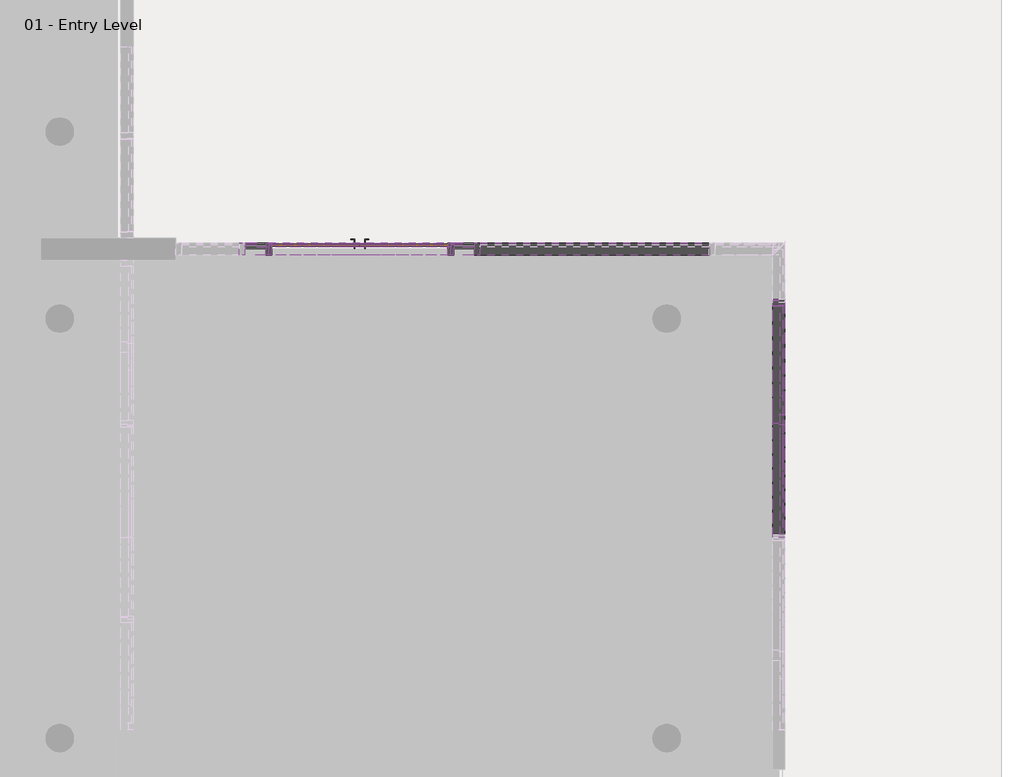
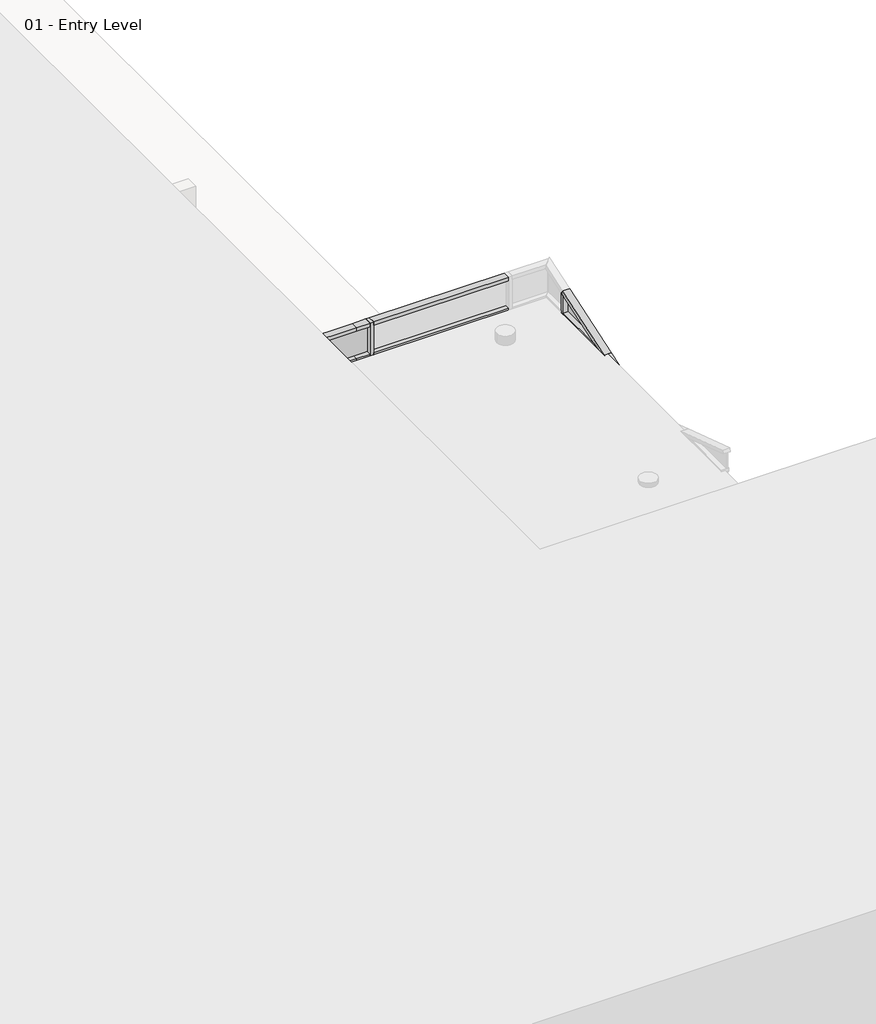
# One storey, part 16 of 34: 93 members, 29 plates, 1 door.
"""IFC4 building model written with IfcOpenShell, lengths in millimetres."""

from ifc_helpers import new_model, si_unit, origin, place, context, project, spatial, transform, mapped, element, save
from components import curtain_wall_dbl_glass_curtain_wall_dbl_glass_a5de0235, member_6e77e263, member_89bfb2f9, member_85cc6aa7, member_474f9ece, member_fce4fd76, member_056e3271, member_b2bde9e6, member_5d67b9fc, member_a5966c2a, member_aa396729, member_420b45ef, member_2eb7018d, member_d60e8053, member_51dbde35, member_30b3e1b1, member_80bb9b3a, member_75d1e245, system_panel_glazed_1068a10c, system_panel_glazed_a178916c, system_panel_glazed_5992a3c5, system_panel_glazed_079f77b7, system_panel_glazed_7ab8f380, system_panel_glazed_5ffb59d1, system_panel_glazed_9c9336f7, system_panel_glazed_75890ef7, system_panel_glazed_ea9774ea

model = new_model("IFC4")

# Units and contexts
model_context = context("Model", 3, world=origin())
ifc_project = project(units=[si_unit("LENGTHUNIT", "METRE", prefix="MILLI")], contexts=[model_context])

# Site, building, storey
site = spatial("IfcSite", under=ifc_project)
building = spatial("IfcBuilding", under=site)
storey = spatial("IfcBuildingStorey", under=building, Name="01 - Entry Level", Elevation=0.0)

# Door
placement = place(None, origin())
curtain_wall_dbl_glass_curtain_wall_dbl_glass_shape = curtain_wall_dbl_glass_curtain_wall_dbl_glass_a5de0235(model_context)
element("IfcDoor", 1, ObjectType="Curtain Wall Dbl Glass : Curtain Wall Dbl Glass", at=placement, inside=storey, context=model_context, shape_type="MappedRepresentation", body=[
    mapped(curtain_wall_dbl_glass_curtain_wall_dbl_glass_shape, transform((19598.7615197, 22545.6, 0.0), x_axis=(-1.0, 0.0, 0.0), y_axis=(0.0, -1.0, 0.0), z_axis=(0.0, 0.0, 1.0))),
])

# Members
member_shape = member_6e77e263(model_context)
element("IfcMember", 2, ObjectType="Rectangular Mullion : 2.5\" x 5\" rectangular", at=placement, inside=storey, context=model_context, shape_type="MappedRepresentation", body=[
    mapped(member_shape, transform((20817.9615197, 22545.6, 0.0), x_axis=(-1.0, 0.0, 0.0), y_axis=(0.0, 1.0, 0.0), z_axis=(0.0, 0.0, -1.0))),
])
element("IfcMember", 3, ObjectType="Rectangular Mullion : 2.5\" x 5\" rectangular", at=placement, inside=storey, context=model_context, shape_type="MappedRepresentation", body=[
    mapped(member_shape, transform((23947.0115197, 21986.8, 0.0), x_axis=(0.0, 1.0, 0.0), y_axis=(1.0, 0.0, 0.0), z_axis=(0.0, 0.0, -1.0))),
])
element("IfcMember", 4, ObjectType="Rectangular Mullion : 2.5\" x 5\" rectangular", at=placement, inside=storey, context=model_context, shape_type="MappedRepresentation", body=[
    mapped(member_shape, transform((20817.9615197, 22545.6, 609.6), x_axis=(-1.0, 0.0, 0.0), y_axis=(0.0, 1.0, 0.0), z_axis=(0.0, 0.0, -1.0))),
])
element("IfcMember", 5, ObjectType="Rectangular Mullion : 2.5\" x 5\" rectangular", at=placement, inside=storey, context=model_context, shape_type="MappedRepresentation", body=[
    mapped(member_shape, transform((20817.9615197, 22545.6, 1219.2), x_axis=(-1.0, 0.0, 0.0), y_axis=(0.0, 1.0, 0.0), z_axis=(0.0, 0.0, -1.0))),
])
element("IfcMember", 6, ObjectType="Rectangular Mullion : 2.5\" x 5\" rectangular", at=placement, inside=storey, context=model_context, shape_type="MappedRepresentation", body=[
    mapped(member_shape, transform((20817.9615197, 22545.6, 2438.4), x_axis=(-1.0, 0.0, 0.0), y_axis=(0.0, 1.0, 0.0), z_axis=(0.0, 0.0, -1.0))),
])
element("IfcMember", 7, ObjectType="Rectangular Mullion : 2.5\" x 5\" rectangular", at=placement, inside=storey, context=model_context, shape_type="MappedRepresentation", body=[
    mapped(member_shape, transform((20817.9615197, 22545.6, 3048.0), x_axis=(-1.0, 0.0, 0.0), y_axis=(0.0, 1.0, 0.0), z_axis=(0.0, 0.0, -1.0))),
])
element("IfcMember", 8, ObjectType="Rectangular Mullion : 2.5\" x 5\" rectangular", at=placement, inside=storey, context=model_context, shape_type="MappedRepresentation", body=[
    mapped(member_shape, transform((23947.0115197, 21986.8, 609.6), x_axis=(0.0, 1.0, 0.0), y_axis=(1.0, 0.0, 0.0), z_axis=(0.0, 0.0, -1.0))),
])
element("IfcMember", 9, ObjectType="Rectangular Mullion : 2.5\" x 5\" rectangular", at=placement, inside=storey, context=model_context, shape_type="MappedRepresentation", body=[
    mapped(member_shape, transform((23947.0115197, 21986.8, 1219.2), x_axis=(0.0, 1.0, 0.0), y_axis=(1.0, 0.0, 0.0), z_axis=(0.0, 0.0, -1.0))),
])
element("IfcMember", 10, ObjectType="Rectangular Mullion : 2.5\" x 5\" rectangular", at=placement, inside=storey, context=model_context, shape_type="MappedRepresentation", body=[
    mapped(member_shape, transform((23947.0115197, 21986.8, 1828.8), x_axis=(0.0, 1.0, 0.0), y_axis=(1.0, 0.0, 0.0), z_axis=(0.0, 0.0, -1.0))),
])
element("IfcMember", 11, ObjectType="Rectangular Mullion : 2.5\" x 5\" rectangular", at=placement, inside=storey, context=model_context, shape_type="MappedRepresentation", body=[
    mapped(member_shape, transform((23947.0115197, 21986.8, 2438.4), x_axis=(0.0, 1.0, 0.0), y_axis=(1.0, 0.0, 0.0), z_axis=(0.0, 0.0, -1.0))),
])
element("IfcMember", 12, ObjectType="Rectangular Mullion : 2.5\" x 5\" rectangular", at=placement, inside=storey, context=model_context, shape_type="MappedRepresentation", body=[
    mapped(member_shape, transform((23947.0115197, 21986.8, 3048.0), x_axis=(0.0, 1.0, 0.0), y_axis=(1.0, 0.0, 0.0), z_axis=(0.0, 0.0, -1.0))),
])
element("IfcMember", 13, ObjectType="Rectangular Mullion : 2.5\" x 5\" rectangular", at=placement, inside=storey, context=model_context, shape_type="MappedRepresentation", body=[
    mapped(member_shape, transform((23947.0115197, 21986.8, 3657.6), x_axis=(0.0, 1.0, 0.0), y_axis=(1.0, 0.0, 0.0), z_axis=(0.0, 0.0, -1.0))),
])
element("IfcMember", 14, ObjectType="Rectangular Mullion : 2.5\" x 5\" rectangular", at=placement, inside=storey, context=model_context, shape_type="MappedRepresentation", body=[
    mapped(member_shape, transform((23947.0115197, 21986.8, 4267.2), x_axis=(0.0, 1.0, 0.0), y_axis=(1.0, 0.0, 0.0), z_axis=(0.0, 0.0, -1.0))),
])
element("IfcMember", 15, ObjectType="Rectangular Mullion : 2.5\" x 5\" rectangular", at=placement, inside=storey, context=model_context, shape_type="MappedRepresentation", body=[
    mapped(member_shape, transform((23947.0115197, 21986.8, 4876.8), x_axis=(0.0, 1.0, 0.0), y_axis=(1.0, 0.0, 0.0), z_axis=(0.0, 0.0, -1.0))),
])
element("IfcMember", 16, ObjectType="Rectangular Mullion : 2.5\" x 5\" rectangular", at=placement, inside=storey, context=model_context, shape_type="MappedRepresentation", body=[
    mapped(member_shape, transform((23947.0115197, 21986.8, 5486.4), x_axis=(0.0, 1.0, 0.0), y_axis=(1.0, 0.0, 0.0), z_axis=(0.0, 0.0, -1.0))),
])
element("IfcMember", 17, ObjectType="Rectangular Mullion : 2.5\" x 5\" rectangular", at=placement, inside=storey, context=model_context, shape_type="MappedRepresentation", body=[
    mapped(member_shape, transform((23947.0115197, 21986.8, 6096.0), x_axis=(0.0, 1.0, 0.0), y_axis=(1.0, 0.0, 0.0), z_axis=(0.0, 0.0, -1.0))),
])
element("IfcMember", 18, ObjectType="Rectangular Mullion : 2.5\" x 5\" rectangular", at=placement, inside=storey, context=model_context, shape_type="MappedRepresentation", body=[
    mapped(member_shape, transform((20817.9615197, 22545.6, 3657.6), x_axis=(-1.0, 0.0, 0.0), y_axis=(0.0, 1.0, 0.0), z_axis=(0.0, 0.0, -1.0))),
])
element("IfcMember", 19, ObjectType="Rectangular Mullion : 2.5\" x 5\" rectangular", at=placement, inside=storey, context=model_context, shape_type="MappedRepresentation", body=[
    mapped(member_shape, transform((20817.9615197, 22545.6, 4267.2), x_axis=(-1.0, 0.0, 0.0), y_axis=(0.0, 1.0, 0.0), z_axis=(0.0, 0.0, -1.0))),
])
element("IfcMember", 20, ObjectType="Rectangular Mullion : 2.5\" x 5\" rectangular", at=placement, inside=storey, context=model_context, shape_type="MappedRepresentation", body=[
    mapped(member_shape, transform((20817.9615197, 22545.6, 4876.8), x_axis=(-1.0, 0.0, 0.0), y_axis=(0.0, 1.0, 0.0), z_axis=(0.0, 0.0, -1.0))),
])
element("IfcMember", 21, ObjectType="Rectangular Mullion : 2.5\" x 5\" rectangular", at=placement, inside=storey, context=model_context, shape_type="MappedRepresentation", body=[
    mapped(member_shape, transform((20817.9615197, 22545.6, 5486.4), x_axis=(-1.0, 0.0, 0.0), y_axis=(0.0, 1.0, 0.0), z_axis=(0.0, 0.0, -1.0))),
])
element("IfcMember", 22, ObjectType="Rectangular Mullion : 2.5\" x 5\" rectangular", at=placement, inside=storey, context=model_context, shape_type="MappedRepresentation", body=[
    mapped(member_shape, transform((20817.9615197, 22545.6, 6096.0), x_axis=(-1.0, 0.0, 0.0), y_axis=(0.0, 1.0, 0.0), z_axis=(0.0, 0.0, -1.0))),
])
element("IfcMember", 23, ObjectType="Rectangular Mullion : 2.5\" x 5\" rectangular", at=placement, inside=storey, context=model_context, shape_type="MappedRepresentation", body=[
    mapped(member_shape, transform((18379.5615197, 22545.6, 5486.4), x_axis=(-1.0, 0.0, 0.0), y_axis=(0.0, 1.0, 0.0), z_axis=(0.0, 0.0, -1.0))),
])
element("IfcMember", 24, ObjectType="Rectangular Mullion : 2.5\" x 5\" rectangular", at=placement, inside=storey, context=model_context, shape_type="MappedRepresentation", body=[
    mapped(member_shape, transform((18379.5615197, 22545.6, 6096.0), x_axis=(-1.0, 0.0, 0.0), y_axis=(0.0, 1.0, 0.0), z_axis=(0.0, 0.0, -1.0))),
])
member_2_shape = member_89bfb2f9(model_context)
element("IfcMember", 25, ObjectType="Rectangular Mullion : 2.5\" x 5\" rectangular", at=placement, inside=storey, context=model_context, shape_type="MappedRepresentation", body=[
    mapped(member_2_shape, transform((20849.7115197, 22545.6, 609.6), x_axis=(0.0, 0.0, 1.0), y_axis=(0.0, 1.0, 0.0), z_axis=(-1.0, 0.0, 0.0))),
])
element("IfcMember", 26, ObjectType="Rectangular Mullion : 2.5\" x 5\" rectangular", at=placement, inside=storey, context=model_context, shape_type="MappedRepresentation", body=[
    mapped(member_2_shape, transform((20849.7115197, 22545.6, 1219.2), x_axis=(0.0, 0.0, 1.0), y_axis=(0.0, 1.0, 0.0), z_axis=(-1.0, 0.0, 0.0))),
])
element("IfcMember", 27, ObjectType="Rectangular Mullion : 2.5\" x 5\" rectangular", at=placement, inside=storey, context=model_context, shape_type="MappedRepresentation", body=[
    mapped(member_2_shape, transform((20849.7115197, 22545.6, 1828.8), x_axis=(0.0, 0.0, 1.0), y_axis=(0.0, 1.0, 0.0), z_axis=(-1.0, 0.0, 0.0))),
])
element("IfcMember", 28, ObjectType="Rectangular Mullion : 2.5\" x 5\" rectangular", at=placement, inside=storey, context=model_context, shape_type="MappedRepresentation", body=[
    mapped(member_2_shape, transform((20849.7115197, 22545.6, 2438.4), x_axis=(0.0, 0.0, 1.0), y_axis=(0.0, 1.0, 0.0), z_axis=(-1.0, 0.0, 0.0))),
])
element("IfcMember", 29, ObjectType="Rectangular Mullion : 2.5\" x 5\" rectangular", at=placement, inside=storey, context=model_context, shape_type="MappedRepresentation", body=[
    mapped(member_2_shape, transform((20849.7115197, 22545.6, 3048.0), x_axis=(0.0, 0.0, 1.0), y_axis=(0.0, 1.0, 0.0), z_axis=(-1.0, 0.0, 0.0))),
])
element("IfcMember", 30, ObjectType="Rectangular Mullion : 2.5\" x 5\" rectangular", at=placement, inside=storey, context=model_context, shape_type="MappedRepresentation", body=[
    mapped(member_2_shape, transform((23947.0115197, 21955.05, 609.6), x_axis=(0.0, 0.0, 1.0), y_axis=(1.0, 0.0, 0.0), z_axis=(0.0, 1.0, 0.0))),
])
element("IfcMember", 31, ObjectType="Rectangular Mullion : 2.5\" x 5\" rectangular", at=placement, inside=storey, context=model_context, shape_type="MappedRepresentation", body=[
    mapped(member_2_shape, transform((23947.0115197, 21955.05, 1219.2), x_axis=(0.0, 0.0, 1.0), y_axis=(1.0, 0.0, 0.0), z_axis=(0.0, 1.0, 0.0))),
])
element("IfcMember", 32, ObjectType="Rectangular Mullion : 2.5\" x 5\" rectangular", at=placement, inside=storey, context=model_context, shape_type="MappedRepresentation", body=[
    mapped(member_2_shape, transform((23947.0115197, 21955.05, 1828.8), x_axis=(0.0, 0.0, 1.0), y_axis=(1.0, 0.0, 0.0), z_axis=(0.0, 1.0, 0.0))),
])
element("IfcMember", 33, ObjectType="Rectangular Mullion : 2.5\" x 5\" rectangular", at=placement, inside=storey, context=model_context, shape_type="MappedRepresentation", body=[
    mapped(member_2_shape, transform((23947.0115197, 21955.05, 2438.4), x_axis=(0.0, 0.0, 1.0), y_axis=(1.0, 0.0, 0.0), z_axis=(0.0, 1.0, 0.0))),
])
element("IfcMember", 34, ObjectType="Rectangular Mullion : 2.5\" x 5\" rectangular", at=placement, inside=storey, context=model_context, shape_type="MappedRepresentation", body=[
    mapped(member_2_shape, transform((23947.0115197, 21955.05, 3048.0), x_axis=(0.0, 0.0, 1.0), y_axis=(1.0, 0.0, 0.0), z_axis=(0.0, 1.0, 0.0))),
])
element("IfcMember", 35, ObjectType="Rectangular Mullion : 2.5\" x 5\" rectangular", at=placement, inside=storey, context=model_context, shape_type="MappedRepresentation", body=[
    mapped(member_2_shape, transform((23947.0115197, 21955.05, 3657.6), x_axis=(0.0, 0.0, 1.0), y_axis=(1.0, 0.0, 0.0), z_axis=(0.0, 1.0, 0.0))),
])
element("IfcMember", 36, ObjectType="Rectangular Mullion : 2.5\" x 5\" rectangular", at=placement, inside=storey, context=model_context, shape_type="MappedRepresentation", body=[
    mapped(member_2_shape, transform((23947.0115197, 21955.05, 4267.2), x_axis=(0.0, 0.0, 1.0), y_axis=(1.0, 0.0, 0.0), z_axis=(0.0, 1.0, 0.0))),
])
element("IfcMember", 37, ObjectType="Rectangular Mullion : 2.5\" x 5\" rectangular", at=placement, inside=storey, context=model_context, shape_type="MappedRepresentation", body=[
    mapped(member_2_shape, transform((23947.0115197, 21955.05, 4876.8), x_axis=(0.0, 0.0, 1.0), y_axis=(1.0, 0.0, 0.0), z_axis=(0.0, 1.0, 0.0))),
])
element("IfcMember", 38, ObjectType="Rectangular Mullion : 2.5\" x 5\" rectangular", at=placement, inside=storey, context=model_context, shape_type="MappedRepresentation", body=[
    mapped(member_2_shape, transform((23947.0115197, 21955.05, 5486.4), x_axis=(0.0, 0.0, 1.0), y_axis=(1.0, 0.0, 0.0), z_axis=(0.0, 1.0, 0.0))),
])
element("IfcMember", 39, ObjectType="Rectangular Mullion : 2.5\" x 5\" rectangular", at=placement, inside=storey, context=model_context, shape_type="MappedRepresentation", body=[
    mapped(member_2_shape, transform((23947.0115197, 21955.05, 6096.0), x_axis=(0.0, 0.0, 1.0), y_axis=(1.0, 0.0, 0.0), z_axis=(0.0, 1.0, 0.0))),
])
element("IfcMember", 40, ObjectType="Rectangular Mullion : 2.5\" x 5\" rectangular", at=placement, inside=storey, context=model_context, shape_type="MappedRepresentation", body=[
    mapped(member_2_shape, transform((20849.7115197, 22545.6, 3657.6), x_axis=(0.0, 0.0, 1.0), y_axis=(0.0, 1.0, 0.0), z_axis=(-1.0, 0.0, 0.0))),
])
element("IfcMember", 41, ObjectType="Rectangular Mullion : 2.5\" x 5\" rectangular", at=placement, inside=storey, context=model_context, shape_type="MappedRepresentation", body=[
    mapped(member_2_shape, transform((20849.7115197, 22545.6, 4267.2), x_axis=(0.0, 0.0, 1.0), y_axis=(0.0, 1.0, 0.0), z_axis=(-1.0, 0.0, 0.0))),
])
element("IfcMember", 42, ObjectType="Rectangular Mullion : 2.5\" x 5\" rectangular", at=placement, inside=storey, context=model_context, shape_type="MappedRepresentation", body=[
    mapped(member_2_shape, transform((20849.7115197, 22545.6, 4876.8), x_axis=(0.0, 0.0, 1.0), y_axis=(0.0, 1.0, 0.0), z_axis=(-1.0, 0.0, 0.0))),
])
element("IfcMember", 43, ObjectType="Rectangular Mullion : 2.5\" x 5\" rectangular", at=placement, inside=storey, context=model_context, shape_type="MappedRepresentation", body=[
    mapped(member_2_shape, transform((20849.7115197, 22545.6, 5486.4), x_axis=(0.0, 0.0, 1.0), y_axis=(0.0, 1.0, 0.0), z_axis=(-1.0, 0.0, 0.0))),
])
element("IfcMember", 44, ObjectType="Rectangular Mullion : 2.5\" x 5\" rectangular", at=placement, inside=storey, context=model_context, shape_type="MappedRepresentation", body=[
    mapped(member_2_shape, transform((20849.7115197, 22545.6, 6096.0), x_axis=(0.0, 0.0, 1.0), y_axis=(0.0, 1.0, 0.0), z_axis=(-1.0, 0.0, 0.0))),
])
element("IfcMember", 45, ObjectType="Rectangular Mullion : 2.5\" x 5\" rectangular", at=placement, inside=storey, context=model_context, shape_type="MappedRepresentation", body=[
    mapped(member_2_shape, transform((20849.7115197, 22545.6, 6705.6), x_axis=(0.0, 0.0, 1.0), y_axis=(0.0, 1.0, 0.0), z_axis=(-1.0, 0.0, 0.0))),
])
member_3_shape = member_85cc6aa7(model_context)
element("IfcMember", 46, ObjectType="Rectangular Mullion : 2.5\" x 5\" rectangular", at=placement, inside=storey, context=model_context, shape_type="MappedRepresentation", body=[
    mapped(member_3_shape, transform((23947.0115197, 20716.8, 6705.6), x_axis=(0.0, -0.316227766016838, 0.9486832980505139), y_axis=(1.0, 0.0, 0.0), z_axis=(0.0, 0.9486832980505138, 0.31622776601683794))),
])
member_4_shape = member_474f9ece(model_context)
element("IfcMember", 47, ObjectType="Rectangular Mullion : 2.5\" x 5\" rectangular", at=placement, inside=storey, context=model_context, shape_type="MappedRepresentation", body=[
    mapped(member_4_shape, transform((23947.0115197, 21955.05, 6705.6), x_axis=(0.0, 0.0, 1.0), y_axis=(1.0, 0.0, 0.0), z_axis=(0.0, 1.0, 0.0))),
])
member_5_shape = member_fce4fd76(model_context)
element("IfcMember", 48, ObjectType="Rectangular Mullion : 2.5\" x 5\" rectangular", at=placement, inside=storey, context=model_context, shape_type="MappedRepresentation", body=[
    mapped(member_5_shape, transform((23947.0115197, 21986.8, 7128.9333333), x_axis=(0.0, -0.31622776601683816, 0.9486832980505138), y_axis=(1.0, 0.0, 0.0), z_axis=(0.0, 0.9486832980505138, 0.31622776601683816))),
])
member_6_shape = member_056e3271(model_context)
element("IfcMember", 49, ObjectType="Rectangular Mullion : 2.5\" x 5\" rectangular", at=placement, inside=storey, context=model_context, shape_type="MappedRepresentation", body=[
    mapped(member_6_shape, transform((23947.0115197, 21986.8, 6705.6), x_axis=(0.0, 1.0, 0.0), y_axis=(1.0, 0.0, 0.0), z_axis=(0.0, 0.0, -1.0))),
])
member_7_shape = member_b2bde9e6(model_context)
element("IfcMember", 50, ObjectType="Rectangular Mullion : 2.5\" x 5\" rectangular", at=placement, inside=storey, context=model_context, shape_type="MappedRepresentation", body=[
    mapped(member_7_shape, transform((20849.7115197, 22545.6, 7315.2), x_axis=(0.0, 0.0, 1.0), y_axis=(0.0, 1.0, 0.0), z_axis=(-1.0, 0.0, 0.0))),
])
element("IfcMember", 51, ObjectType="Rectangular Mullion : 2.5\" x 5\" rectangular", at=placement, inside=storey, context=model_context, shape_type="MappedRepresentation", body=[
    mapped(member_shape, transform((20817.9615197, 22545.6, 6705.6), x_axis=(-1.0, 0.0, 0.0), y_axis=(0.0, 1.0, 0.0), z_axis=(0.0, 0.0, -1.0))),
])
element("IfcMember", 52, ObjectType="Rectangular Mullion : 2.5\" x 5\" rectangular", at=placement, inside=storey, context=model_context, shape_type="MappedRepresentation", body=[
    mapped(member_shape, transform((18379.5615197, 22545.6, 6705.6), x_axis=(-1.0, 0.0, 0.0), y_axis=(0.0, 1.0, 0.0), z_axis=(0.0, 0.0, -1.0))),
])
member_8_shape = member_5d67b9fc(model_context)
element("IfcMember", 53, ObjectType="Rectangular Mullion : 2.5\" x 5\" rectangular", at=placement, inside=storey, context=model_context, shape_type="MappedRepresentation", body=[
    mapped(member_8_shape, transform((20817.9615197, 22545.6, 2165.35), x_axis=(-1.0, 0.0, 0.0), y_axis=(0.0, 1.0, 0.0), z_axis=(0.0, 0.0, -1.0))),
])
element("IfcMember", 54, ObjectType="Rectangular Mullion : 2.5\" x 5\" rectangular", at=placement, inside=storey, context=model_context, shape_type="MappedRepresentation", body=[
    mapped(member_8_shape, transform((18379.5615197, 22545.6, 2165.35), x_axis=(-1.0, 0.0, 0.0), y_axis=(0.0, 1.0, 0.0), z_axis=(0.0, 0.0, -1.0))),
])
member_9_shape = member_a5966c2a(model_context)
element("IfcMember", 55, ObjectType="Rectangular Mullion : 2.5\" x 5\" rectangular", at=placement, inside=storey, context=model_context, shape_type="MappedRepresentation", body=[
    mapped(member_9_shape, transform((20576.6615197, 22545.6, 2438.4), x_axis=(0.0, 0.0, 1.0), y_axis=(0.0, 1.0, 0.0), z_axis=(-1.0, 0.0, 0.0))),
])
element("IfcMember", 56, ObjectType="Rectangular Mullion : 2.5\" x 5\" rectangular", at=placement, inside=storey, context=model_context, shape_type="MappedRepresentation", body=[
    mapped(member_9_shape, transform((18411.3115197, 22545.6, 2438.4), x_axis=(0.0, 0.0, 1.0), y_axis=(0.0, 1.0, 0.0), z_axis=(-1.0, 0.0, 0.0))),
])
member_10_shape = member_aa396729(model_context)
element("IfcMember", 57, ObjectType="Rectangular Mullion : 2.5\" x 5\" rectangular", at=placement, inside=storey, context=model_context, shape_type="MappedRepresentation", body=[
    mapped(member_10_shape, transform((20544.9115197, 22545.6, 3048.0), x_axis=(0.0, 0.0, 1.0), y_axis=(0.0, 1.0, 0.0), z_axis=(-1.0, 0.0, 0.0))),
])
element("IfcMember", 58, ObjectType="Rectangular Mullion : 2.5\" x 5\" rectangular", at=placement, inside=storey, context=model_context, shape_type="MappedRepresentation", body=[
    mapped(member_10_shape, transform((20544.9115197, 22545.6, 3657.6), x_axis=(0.0, 0.0, 1.0), y_axis=(0.0, 1.0, 0.0), z_axis=(-1.0, 0.0, 0.0))),
])
element("IfcMember", 59, ObjectType="Rectangular Mullion : 2.5\" x 5\" rectangular", at=placement, inside=storey, context=model_context, shape_type="MappedRepresentation", body=[
    mapped(member_10_shape, transform((20544.9115197, 22545.6, 4267.2), x_axis=(0.0, 0.0, 1.0), y_axis=(0.0, 1.0, 0.0), z_axis=(-1.0, 0.0, 0.0))),
])
element("IfcMember", 60, ObjectType="Rectangular Mullion : 2.5\" x 5\" rectangular", at=placement, inside=storey, context=model_context, shape_type="MappedRepresentation", body=[
    mapped(member_10_shape, transform((20544.9115197, 22545.6, 4876.8), x_axis=(0.0, 0.0, 1.0), y_axis=(0.0, 1.0, 0.0), z_axis=(-1.0, 0.0, 0.0))),
])
element("IfcMember", 61, ObjectType="Rectangular Mullion : 2.5\" x 5\" rectangular", at=placement, inside=storey, context=model_context, shape_type="MappedRepresentation", body=[
    mapped(member_10_shape, transform((20544.9115197, 22545.6, 5486.4), x_axis=(0.0, 0.0, 1.0), y_axis=(0.0, 1.0, 0.0), z_axis=(-1.0, 0.0, 0.0))),
])
element("IfcMember", 62, ObjectType="Rectangular Mullion : 2.5\" x 5\" rectangular", at=placement, inside=storey, context=model_context, shape_type="MappedRepresentation", body=[
    mapped(member_10_shape, transform((20544.9115197, 22545.6, 6096.0), x_axis=(0.0, 0.0, 1.0), y_axis=(0.0, 1.0, 0.0), z_axis=(-1.0, 0.0, 0.0))),
])
element("IfcMember", 63, ObjectType="Rectangular Mullion : 2.5\" x 5\" rectangular", at=placement, inside=storey, context=model_context, shape_type="MappedRepresentation", body=[
    mapped(member_10_shape, transform((20544.9115197, 22545.6, 6705.6), x_axis=(0.0, 0.0, 1.0), y_axis=(0.0, 1.0, 0.0), z_axis=(-1.0, 0.0, 0.0))),
])
member_11_shape = member_420b45ef(model_context)
element("IfcMember", 64, ObjectType="Rectangular Mullion : 2.5\" x 5\" rectangular", at=placement, inside=storey, context=model_context, shape_type="MappedRepresentation", body=[
    mapped(member_11_shape, transform((20786.2115197, 22545.6, 0.0), x_axis=(0.0, 0.0, -1.0), y_axis=(0.0, 1.0, 0.0), z_axis=(1.0, 0.0, 0.0))),
])
element("IfcMember", 65, ObjectType="Rectangular Mullion : 2.5\" x 5\" rectangular", at=placement, inside=storey, context=model_context, shape_type="MappedRepresentation", body=[
    mapped(member_11_shape, transform((18620.8615197, 22545.6, 0.0), x_axis=(0.0, 0.0, -1.0), y_axis=(0.0, 1.0, 0.0), z_axis=(1.0, 0.0, 0.0))),
])
member_12_shape = member_2eb7018d(model_context)
element("IfcMember", 66, ObjectType="Rectangular Mullion : 2.5\" x 5\" rectangular", at=placement, inside=storey, context=model_context, shape_type="MappedRepresentation", body=[
    mapped(member_12_shape, transform((20544.9115197, 22545.6, 7315.2), x_axis=(0.0, 0.0, 1.0), y_axis=(0.0, 1.0, 0.0), z_axis=(-1.0, 0.0, 0.0))),
])
element("IfcMember", 67, ObjectType="Rectangular Mullion : 2.5\" x 5\" rectangular", at=placement, inside=storey, context=model_context, shape_type="MappedRepresentation", body=[
    mapped(member_10_shape, transform((18411.3115197, 22545.6, 3048.0), x_axis=(0.0, 0.0, 1.0), y_axis=(0.0, 1.0, 0.0), z_axis=(-1.0, 0.0, 0.0))),
])
element("IfcMember", 68, ObjectType="Rectangular Mullion : 2.5\" x 5\" rectangular", at=placement, inside=storey, context=model_context, shape_type="MappedRepresentation", body=[
    mapped(member_10_shape, transform((18411.3115197, 22545.6, 3657.6), x_axis=(0.0, 0.0, 1.0), y_axis=(0.0, 1.0, 0.0), z_axis=(-1.0, 0.0, 0.0))),
])
element("IfcMember", 69, ObjectType="Rectangular Mullion : 2.5\" x 5\" rectangular", at=placement, inside=storey, context=model_context, shape_type="MappedRepresentation", body=[
    mapped(member_10_shape, transform((18411.3115197, 22545.6, 4267.2), x_axis=(0.0, 0.0, 1.0), y_axis=(0.0, 1.0, 0.0), z_axis=(-1.0, 0.0, 0.0))),
])
element("IfcMember", 70, ObjectType="Rectangular Mullion : 2.5\" x 5\" rectangular", at=placement, inside=storey, context=model_context, shape_type="MappedRepresentation", body=[
    mapped(member_10_shape, transform((18411.3115197, 22545.6, 4876.8), x_axis=(0.0, 0.0, 1.0), y_axis=(0.0, 1.0, 0.0), z_axis=(-1.0, 0.0, 0.0))),
])
element("IfcMember", 71, ObjectType="Rectangular Mullion : 2.5\" x 5\" rectangular", at=placement, inside=storey, context=model_context, shape_type="MappedRepresentation", body=[
    mapped(member_10_shape, transform((18411.3115197, 22545.6, 5486.4), x_axis=(0.0, 0.0, 1.0), y_axis=(0.0, 1.0, 0.0), z_axis=(-1.0, 0.0, 0.0))),
])
element("IfcMember", 72, ObjectType="Rectangular Mullion : 2.5\" x 5\" rectangular", at=placement, inside=storey, context=model_context, shape_type="MappedRepresentation", body=[
    mapped(member_10_shape, transform((18411.3115197, 22545.6, 6096.0), x_axis=(0.0, 0.0, 1.0), y_axis=(0.0, 1.0, 0.0), z_axis=(-1.0, 0.0, 0.0))),
])
element("IfcMember", 73, ObjectType="Rectangular Mullion : 2.5\" x 5\" rectangular", at=placement, inside=storey, context=model_context, shape_type="MappedRepresentation", body=[
    mapped(member_10_shape, transform((18411.3115197, 22545.6, 6705.6), x_axis=(0.0, 0.0, 1.0), y_axis=(0.0, 1.0, 0.0), z_axis=(-1.0, 0.0, 0.0))),
])
member_13_shape = member_d60e8053(model_context)
element("IfcMember", 74, ObjectType="Rectangular Mullion : 2.5\" x 5\" rectangular", at=placement, inside=storey, context=model_context, shape_type="MappedRepresentation", body=[
    mapped(member_13_shape, transform((18684.3615197, 22545.6, 2438.4), x_axis=(0.0, 0.0, 1.0), y_axis=(0.0, 1.0, 0.0), z_axis=(-1.0, 0.0, 0.0))),
])
element("IfcMember", 75, ObjectType="Rectangular Mullion : 2.5\" x 5\" rectangular", at=placement, inside=storey, context=model_context, shape_type="MappedRepresentation", body=[
    mapped(member_13_shape, transform((18684.3615197, 22545.6, 2165.35), x_axis=(0.0, 0.0, 1.0), y_axis=(0.0, 1.0, 0.0), z_axis=(-1.0, 0.0, 0.0))),
])
member_14_shape = member_51dbde35(model_context)
element("IfcMember", 76, ObjectType="Rectangular Mullion : 2.5\" x 5\" rectangular", at=placement, inside=storey, context=model_context, shape_type="MappedRepresentation", body=[
    mapped(member_14_shape, transform((18652.6115197, 22545.6, 3048.0), x_axis=(0.0, 0.0, 1.0), y_axis=(0.0, 1.0, 0.0), z_axis=(-1.0, 0.0, 0.0))),
])
element("IfcMember", 77, ObjectType="Rectangular Mullion : 2.5\" x 5\" rectangular", at=placement, inside=storey, context=model_context, shape_type="MappedRepresentation", body=[
    mapped(member_14_shape, transform((18652.6115197, 22545.6, 3657.6), x_axis=(0.0, 0.0, 1.0), y_axis=(0.0, 1.0, 0.0), z_axis=(-1.0, 0.0, 0.0))),
])
element("IfcMember", 78, ObjectType="Rectangular Mullion : 2.5\" x 5\" rectangular", at=placement, inside=storey, context=model_context, shape_type="MappedRepresentation", body=[
    mapped(member_14_shape, transform((18652.6115197, 22545.6, 4267.2), x_axis=(0.0, 0.0, 1.0), y_axis=(0.0, 1.0, 0.0), z_axis=(-1.0, 0.0, 0.0))),
])
element("IfcMember", 79, ObjectType="Rectangular Mullion : 2.5\" x 5\" rectangular", at=placement, inside=storey, context=model_context, shape_type="MappedRepresentation", body=[
    mapped(member_14_shape, transform((18652.6115197, 22545.6, 4876.8), x_axis=(0.0, 0.0, 1.0), y_axis=(0.0, 1.0, 0.0), z_axis=(-1.0, 0.0, 0.0))),
])
element("IfcMember", 80, ObjectType="Rectangular Mullion : 2.5\" x 5\" rectangular", at=placement, inside=storey, context=model_context, shape_type="MappedRepresentation", body=[
    mapped(member_14_shape, transform((18652.6115197, 22545.6, 5486.4), x_axis=(0.0, 0.0, 1.0), y_axis=(0.0, 1.0, 0.0), z_axis=(-1.0, 0.0, 0.0))),
])
element("IfcMember", 81, ObjectType="Rectangular Mullion : 2.5\" x 5\" rectangular", at=placement, inside=storey, context=model_context, shape_type="MappedRepresentation", body=[
    mapped(member_14_shape, transform((18652.6115197, 22545.6, 6096.0), x_axis=(0.0, 0.0, 1.0), y_axis=(0.0, 1.0, 0.0), z_axis=(-1.0, 0.0, 0.0))),
])
element("IfcMember", 82, ObjectType="Rectangular Mullion : 2.5\" x 5\" rectangular", at=placement, inside=storey, context=model_context, shape_type="MappedRepresentation", body=[
    mapped(member_14_shape, transform((18652.6115197, 22545.6, 6705.6), x_axis=(0.0, 0.0, 1.0), y_axis=(0.0, 1.0, 0.0), z_axis=(-1.0, 0.0, 0.0))),
])
member_15_shape = member_30b3e1b1(model_context)
element("IfcMember", 83, ObjectType="Rectangular Mullion : 2.5\" x 5\" rectangular", at=placement, inside=storey, context=model_context, shape_type="MappedRepresentation", body=[
    mapped(member_15_shape, transform((18652.6115197, 22545.6, 7315.2), x_axis=(0.0, 0.0, 1.0), y_axis=(0.0, 1.0, 0.0), z_axis=(-1.0, 0.0, 0.0))),
])
element("IfcMember", 84, ObjectType="Rectangular Mullion : 2.5\" x 5\" rectangular", at=placement, inside=storey, context=model_context, shape_type="MappedRepresentation", body=[
    mapped(member_shape, transform((20544.9115197, 22545.6, 609.6), x_axis=(-1.0, 0.0, 0.0), y_axis=(0.0, 1.0, 0.0), z_axis=(0.0, 0.0, -1.0))),
])
element("IfcMember", 85, ObjectType="Rectangular Mullion : 2.5\" x 5\" rectangular", at=placement, inside=storey, context=model_context, shape_type="MappedRepresentation", body=[
    mapped(member_shape, transform((20544.9115197, 22545.6, 1219.2), x_axis=(-1.0, 0.0, 0.0), y_axis=(0.0, 1.0, 0.0), z_axis=(0.0, 0.0, -1.0))),
])
element("IfcMember", 86, ObjectType="Rectangular Mullion : 2.5\" x 5\" rectangular", at=placement, inside=storey, context=model_context, shape_type="MappedRepresentation", body=[
    mapped(member_shape, transform((18652.6115197, 22545.6, 609.6), x_axis=(-1.0, 0.0, 0.0), y_axis=(0.0, 1.0, 0.0), z_axis=(0.0, 0.0, -1.0))),
])
element("IfcMember", 87, ObjectType="Rectangular Mullion : 2.5\" x 5\" rectangular", at=placement, inside=storey, context=model_context, shape_type="MappedRepresentation", body=[
    mapped(member_shape, transform((18652.6115197, 22545.6, 1219.2), x_axis=(-1.0, 0.0, 0.0), y_axis=(0.0, 1.0, 0.0), z_axis=(0.0, 0.0, -1.0))),
])
element("IfcMember", 88, ObjectType="Rectangular Mullion : 2.5\" x 5\" rectangular", at=placement, inside=storey, context=model_context, shape_type="MappedRepresentation", body=[
    mapped(member_shape, transform((20544.9115197, 22545.6, 0.0), x_axis=(-1.0, 0.0, 0.0), y_axis=(0.0, 1.0, 0.0), z_axis=(0.0, 0.0, -1.0))),
])
element("IfcMember", 89, ObjectType="Rectangular Mullion : 2.5\" x 5\" rectangular", at=placement, inside=storey, context=model_context, shape_type="MappedRepresentation", body=[
    mapped(member_shape, transform((18652.6115197, 22545.6, 0.0), x_axis=(-1.0, 0.0, 0.0), y_axis=(0.0, 1.0, 0.0), z_axis=(0.0, 0.0, -1.0))),
])
member_16_shape = member_80bb9b3a(model_context)
element("IfcMember", 90, ObjectType="Rectangular Mullion : 2.5\" x 5\" rectangular", at=placement, inside=storey, context=model_context, shape_type="MappedRepresentation", body=[
    mapped(member_16_shape, transform((20817.9615197, 22545.6, 1828.8), x_axis=(-1.0, 0.0, 0.0), y_axis=(0.0, 1.0, 0.0), z_axis=(0.0, 0.0, -1.0))),
])
element("IfcMember", 91, ObjectType="Rectangular Mullion : 2.5\" x 5\" rectangular", at=placement, inside=storey, context=model_context, shape_type="MappedRepresentation", body=[
    mapped(member_16_shape, transform((20544.9115197, 22545.6, 1828.8), x_axis=(-1.0, 0.0, 0.0), y_axis=(0.0, 1.0, 0.0), z_axis=(0.0, 0.0, -1.0))),
])
element("IfcMember", 92, ObjectType="Rectangular Mullion : 2.5\" x 5\" rectangular", at=placement, inside=storey, context=model_context, shape_type="MappedRepresentation", body=[
    mapped(member_16_shape, transform((18652.6115197, 22545.6, 1828.8), x_axis=(-1.0, 0.0, 0.0), y_axis=(0.0, 1.0, 0.0), z_axis=(0.0, 0.0, -1.0))),
])
member_17_shape = member_75d1e245(model_context)
element("IfcMember", 93, ObjectType="Rectangular Mullion : 2.5\" x 5\" rectangular", at=placement, inside=storey, context=model_context, shape_type="MappedRepresentation", body=[
    mapped(member_17_shape, transform((20544.9115197, 22545.6, 2165.35), x_axis=(-1.0, 0.0, 0.0), y_axis=(0.0, 1.0, 0.0), z_axis=(0.0, 0.0, -1.0))),
])
element("IfcMember", 94, ObjectType="Rectangular Mullion : 2.5\" x 5\" rectangular", at=placement, inside=storey, context=model_context, shape_type="MappedRepresentation", body=[
    mapped(member_17_shape, transform((18652.6115197, 22545.6, 2165.35), x_axis=(-1.0, 0.0, 0.0), y_axis=(0.0, 1.0, 0.0), z_axis=(0.0, 0.0, -1.0))),
])

# Plates
system_panel_glazed_shape = system_panel_glazed_1068a10c(model_context)
element("IfcPlate", 95, ObjectType="System Panel : Glazed", at=placement, inside=storey, context=model_context, shape_type="MappedRepresentation", body=[
    mapped(system_panel_glazed_shape, transform((22037.1615197, 22545.6, 63.5), x_axis=(-1.0, 0.0, 0.0), y_axis=(0.0, -1.0, 0.0), z_axis=(0.0, 0.0, 1.0))),
])
element("IfcPlate", 96, ObjectType="System Panel : Glazed", at=placement, inside=storey, context=model_context, shape_type="MappedRepresentation", body=[
    mapped(system_panel_glazed_shape, transform((23947.0115197, 20767.6, 63.5), x_axis=(0.0, 1.0, 0.0), y_axis=(-1.0, 0.0, 0.0), z_axis=(0.0, 0.0, 1.0))),
])
system_panel_glazed_2_shape = system_panel_glazed_a178916c(model_context)
element("IfcPlate", 97, ObjectType="System Panel : Glazed", at=placement, inside=storey, context=model_context, shape_type="MappedRepresentation", body=[
    mapped(system_panel_glazed_2_shape, transform((22037.1615197, 22545.6, 641.35), x_axis=(-1.0, 0.0, 0.0), y_axis=(0.0, -1.0, 0.0), z_axis=(0.0, 0.0, 1.0))),
])
element("IfcPlate", 98, ObjectType="System Panel : Glazed", at=placement, inside=storey, context=model_context, shape_type="MappedRepresentation", body=[
    mapped(system_panel_glazed_2_shape, transform((22037.1615197, 22545.6, 1250.95), x_axis=(-1.0, 0.0, 0.0), y_axis=(0.0, -1.0, 0.0), z_axis=(0.0, 0.0, 1.0))),
])
element("IfcPlate", 99, ObjectType="System Panel : Glazed", at=placement, inside=storey, context=model_context, shape_type="MappedRepresentation", body=[
    mapped(system_panel_glazed_2_shape, transform((22037.1615197, 22545.6, 2470.15), x_axis=(-1.0, 0.0, 0.0), y_axis=(0.0, -1.0, 0.0), z_axis=(0.0, 0.0, 1.0))),
])
element("IfcPlate", 100, ObjectType="System Panel : Glazed", at=placement, inside=storey, context=model_context, shape_type="MappedRepresentation", body=[
    mapped(system_panel_glazed_2_shape, transform((22037.1615197, 22545.6, 3079.75), x_axis=(-1.0, 0.0, 0.0), y_axis=(0.0, -1.0, 0.0), z_axis=(0.0, 0.0, 1.0))),
])
element("IfcPlate", 101, ObjectType="System Panel : Glazed", at=placement, inside=storey, context=model_context, shape_type="MappedRepresentation", body=[
    mapped(system_panel_glazed_2_shape, transform((23947.0115197, 20767.6, 641.35), x_axis=(0.0, 1.0, 0.0), y_axis=(-1.0, 0.0, 0.0), z_axis=(0.0, 0.0, 1.0))),
])
element("IfcPlate", 102, ObjectType="System Panel : Glazed", at=placement, inside=storey, context=model_context, shape_type="MappedRepresentation", body=[
    mapped(system_panel_glazed_2_shape, transform((23947.0115197, 20767.6, 1250.95), x_axis=(0.0, 1.0, 0.0), y_axis=(-1.0, 0.0, 0.0), z_axis=(0.0, 0.0, 1.0))),
])
element("IfcPlate", 103, ObjectType="System Panel : Glazed", at=placement, inside=storey, context=model_context, shape_type="MappedRepresentation", body=[
    mapped(system_panel_glazed_2_shape, transform((23947.0115197, 20767.6, 1860.55), x_axis=(0.0, 1.0, 0.0), y_axis=(-1.0, 0.0, 0.0), z_axis=(0.0, 0.0, 1.0))),
])
element("IfcPlate", 104, ObjectType="System Panel : Glazed", at=placement, inside=storey, context=model_context, shape_type="MappedRepresentation", body=[
    mapped(system_panel_glazed_2_shape, transform((23947.0115197, 20767.6, 2470.15), x_axis=(0.0, 1.0, 0.0), y_axis=(-1.0, 0.0, 0.0), z_axis=(0.0, 0.0, 1.0))),
])
element("IfcPlate", 105, ObjectType="System Panel : Glazed", at=placement, inside=storey, context=model_context, shape_type="MappedRepresentation", body=[
    mapped(system_panel_glazed_2_shape, transform((23947.0115197, 20767.6, 3079.75), x_axis=(0.0, 1.0, 0.0), y_axis=(-1.0, 0.0, 0.0), z_axis=(0.0, 0.0, 1.0))),
])
element("IfcPlate", 106, ObjectType="System Panel : Glazed", at=placement, inside=storey, context=model_context, shape_type="MappedRepresentation", body=[
    mapped(system_panel_glazed_2_shape, transform((23947.0115197, 20767.6, 3689.35), x_axis=(0.0, 1.0, 0.0), y_axis=(-1.0, 0.0, 0.0), z_axis=(0.0, 0.0, 1.0))),
])
element("IfcPlate", 107, ObjectType="System Panel : Glazed", at=placement, inside=storey, context=model_context, shape_type="MappedRepresentation", body=[
    mapped(system_panel_glazed_2_shape, transform((23947.0115197, 20767.6, 4298.95), x_axis=(0.0, 1.0, 0.0), y_axis=(-1.0, 0.0, 0.0), z_axis=(0.0, 0.0, 1.0))),
])
element("IfcPlate", 108, ObjectType="System Panel : Glazed", at=placement, inside=storey, context=model_context, shape_type="MappedRepresentation", body=[
    mapped(system_panel_glazed_2_shape, transform((23947.0115197, 20767.6, 4908.55), x_axis=(0.0, 1.0, 0.0), y_axis=(-1.0, 0.0, 0.0), z_axis=(0.0, 0.0, 1.0))),
])
element("IfcPlate", 109, ObjectType="System Panel : Glazed", at=placement, inside=storey, context=model_context, shape_type="MappedRepresentation", body=[
    mapped(system_panel_glazed_2_shape, transform((23947.0115197, 20767.6, 5518.15), x_axis=(0.0, 1.0, 0.0), y_axis=(-1.0, 0.0, 0.0), z_axis=(0.0, 0.0, 1.0))),
])
system_panel_glazed_3_shape = system_panel_glazed_5992a3c5(model_context)
element("IfcPlate", 110, ObjectType="System Panel : Glazed", at=placement, inside=storey, context=model_context, shape_type="MappedRepresentation", body=[
    mapped(system_panel_glazed_3_shape, transform((23947.0115197, 20767.6, 6127.75), x_axis=(0.0, 1.0, 0.0), y_axis=(-1.0, 0.0, 0.0), z_axis=(0.0, 0.0, 1.0))),
])
system_panel_glazed_4_shape = system_panel_glazed_079f77b7(model_context)
element("IfcPlate", 111, ObjectType="System Panel : Glazed", at=placement, inside=storey, context=model_context, shape_type="MappedRepresentation", body=[
    mapped(system_panel_glazed_4_shape, transform((23947.0115197, 21483.9523157, 6737.35), x_axis=(0.0, 1.0, 0.0), y_axis=(-1.0, 0.0, 0.0), z_axis=(0.0, 0.0, 1.0))),
])
system_panel_glazed_5_shape = system_panel_glazed_7ab8f380(model_context)
element("IfcPlate", 112, ObjectType="System Panel : Glazed", at=placement, inside=storey, context=model_context, shape_type="MappedRepresentation", body=[
    mapped(system_panel_glazed_5_shape, transform((19598.7615197, 22545.6, 2470.15), x_axis=(-1.0, 0.0, 0.0), y_axis=(0.0, -1.0, 0.0), z_axis=(0.0, 0.0, 1.0))),
])
element("IfcPlate", 113, ObjectType="System Panel : Glazed", at=placement, inside=storey, context=model_context, shape_type="MappedRepresentation", body=[
    mapped(system_panel_glazed_5_shape, transform((19598.7615197, 22545.6, 3079.75), x_axis=(-1.0, 0.0, 0.0), y_axis=(0.0, -1.0, 0.0), z_axis=(0.0, 0.0, 1.0))),
])
element("IfcPlate", 114, ObjectType="System Panel : Glazed", at=placement, inside=storey, context=model_context, shape_type="MappedRepresentation", body=[
    mapped(system_panel_glazed_5_shape, transform((19598.7615197, 22545.6, 3689.35), x_axis=(-1.0, 0.0, 0.0), y_axis=(0.0, -1.0, 0.0), z_axis=(0.0, 0.0, 1.0))),
])
element("IfcPlate", 115, ObjectType="System Panel : Glazed", at=placement, inside=storey, context=model_context, shape_type="MappedRepresentation", body=[
    mapped(system_panel_glazed_5_shape, transform((19598.7615197, 22545.6, 4298.95), x_axis=(-1.0, 0.0, 0.0), y_axis=(0.0, -1.0, 0.0), z_axis=(0.0, 0.0, 1.0))),
])
element("IfcPlate", 116, ObjectType="System Panel : Glazed", at=placement, inside=storey, context=model_context, shape_type="MappedRepresentation", body=[
    mapped(system_panel_glazed_5_shape, transform((19598.7615197, 22545.6, 4908.55), x_axis=(-1.0, 0.0, 0.0), y_axis=(0.0, -1.0, 0.0), z_axis=(0.0, 0.0, 1.0))),
])
element("IfcPlate", 117, ObjectType="System Panel : Glazed", at=placement, inside=storey, context=model_context, shape_type="MappedRepresentation", body=[
    mapped(system_panel_glazed_5_shape, transform((19598.7615197, 22545.6, 5518.15), x_axis=(-1.0, 0.0, 0.0), y_axis=(0.0, -1.0, 0.0), z_axis=(0.0, 0.0, 1.0))),
])
element("IfcPlate", 118, ObjectType="System Panel : Glazed", at=placement, inside=storey, context=model_context, shape_type="MappedRepresentation", body=[
    mapped(system_panel_glazed_5_shape, transform((19598.7615197, 22545.6, 6127.75), x_axis=(-1.0, 0.0, 0.0), y_axis=(0.0, -1.0, 0.0), z_axis=(0.0, 0.0, 1.0))),
])
system_panel_glazed_6_shape = system_panel_glazed_5ffb59d1(model_context)
element("IfcPlate", 119, ObjectType="System Panel : Glazed", at=placement, inside=storey, context=model_context, shape_type="MappedRepresentation", body=[
    mapped(system_panel_glazed_6_shape, transform((19598.7615197, 22545.6, 6737.35), x_axis=(-1.0, 0.0, 0.0), y_axis=(0.0, -1.0, 0.0), z_axis=(0.0, 0.0, 1.0))),
])
system_panel_glazed_7_shape = system_panel_glazed_9c9336f7(model_context)
element("IfcPlate", 120, ObjectType="System Panel : Glazed", at=placement, inside=storey, context=model_context, shape_type="MappedRepresentation", body=[
    mapped(system_panel_glazed_7_shape, transform((20681.4365197, 22545.6, 63.5), x_axis=(-1.0, 0.0, 0.0), y_axis=(0.0, -1.0, 0.0), z_axis=(0.0, 0.0, 1.0))),
])
element("IfcPlate", 121, ObjectType="System Panel : Glazed", at=placement, inside=storey, context=model_context, shape_type="MappedRepresentation", body=[
    mapped(system_panel_glazed_7_shape, transform((18516.0865197, 22545.6, 63.5), x_axis=(-1.0, 0.0, 0.0), y_axis=(0.0, -1.0, 0.0), z_axis=(0.0, 0.0, 1.0))),
])
system_panel_glazed_8_shape = system_panel_glazed_75890ef7(model_context)
element("IfcPlate", 122, ObjectType="System Panel : Glazed", at=placement, inside=storey, context=model_context, shape_type="MappedRepresentation", body=[
    mapped(system_panel_glazed_8_shape, transform((22037.1615197, 22545.6, 1860.55), x_axis=(-1.0, 0.0, 0.0), y_axis=(0.0, -1.0, 0.0), z_axis=(0.0, 0.0, 1.0))),
])
system_panel_glazed_9_shape = system_panel_glazed_ea9774ea(model_context)
element("IfcPlate", 123, ObjectType="System Panel : Glazed", at=placement, inside=storey, context=model_context, shape_type="MappedRepresentation", body=[
    mapped(system_panel_glazed_9_shape, transform((19598.7615197, 22545.6, 2197.1), x_axis=(-1.0, 0.0, 0.0), y_axis=(0.0, -1.0, 0.0), z_axis=(0.0, 0.0, 1.0))),
])

save(model, "model.ifc")
